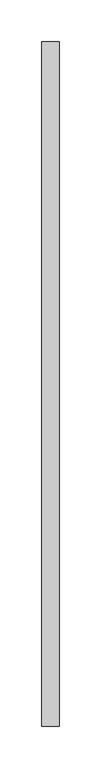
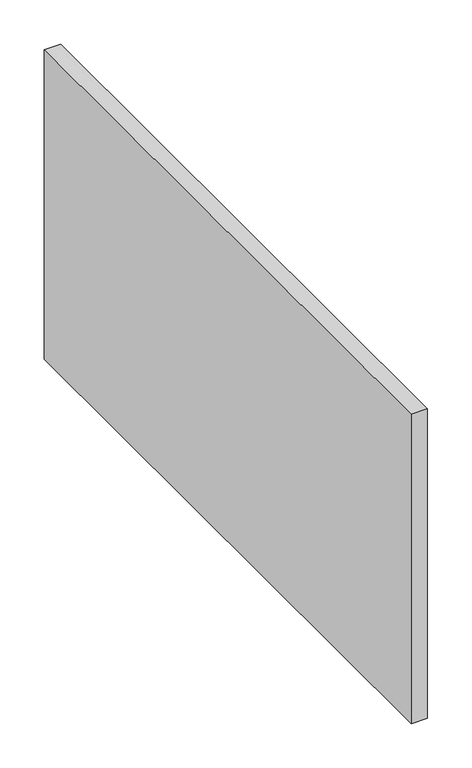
"""IFC4 building model written with IfcOpenShell, lengths in millimetres: duct fitting geometry, MEP_15.03 Injerto Conducte : Mínimo."""

from ifc_helpers import new_model, si_unit, frame, origin, place, context, project, spatial, polyline, outline, extrude, source, transform, mapped, element, save


def duct_fitting_d2a5ebf4(model_context):
    return source(origin(), model_context, "Body", "SweptSolid", [
        extrude(outline(polyline([(-6.096, -412.5), (-6.096, 412.5), (15.0, 412.5), (15.0, -412.5), (-6.096, -412.5)])), frame((0.0, 0.0, -212.5), z_axis=(0.0, 0.0, 1.0), x_axis=(1.0, 0.0, 0.0)), (0.0, 0.0, 1.0), 425.0),
    ])


if __name__ == "__main__":
    model = new_model("IFC4")
    model_context = context("Model", 3, world=origin())
    ifc_project = project(units=[si_unit("LENGTHUNIT", "METRE", prefix="MILLI")], contexts=[model_context])
    site = spatial("IfcSite", under=ifc_project)
    building = spatial("IfcBuilding", under=site)
    placement = place(None, origin())
    duct_fitting_shape = duct_fitting_d2a5ebf4(model_context)
    element("IfcDuctFitting", 1, ObjectType="MEP_15.03 Injerto Conducte : Mínimo", at=placement, inside=building, context=model_context, shape_type="MappedRepresentation", body=[
        mapped(duct_fitting_shape, transform((0.0, 0.0, 0.0), x_axis=(1.0, 0.0, 0.0), y_axis=(0.0, 1.0, 0.0), z_axis=(0.0, 0.0, 1.0))),
    ])
    save(model, "model.ifc")
